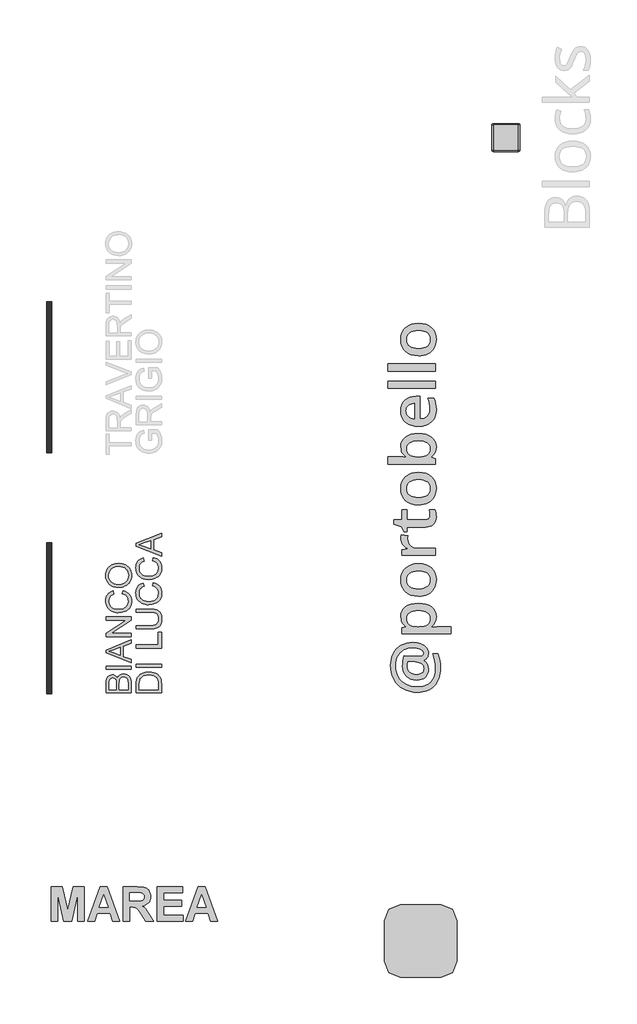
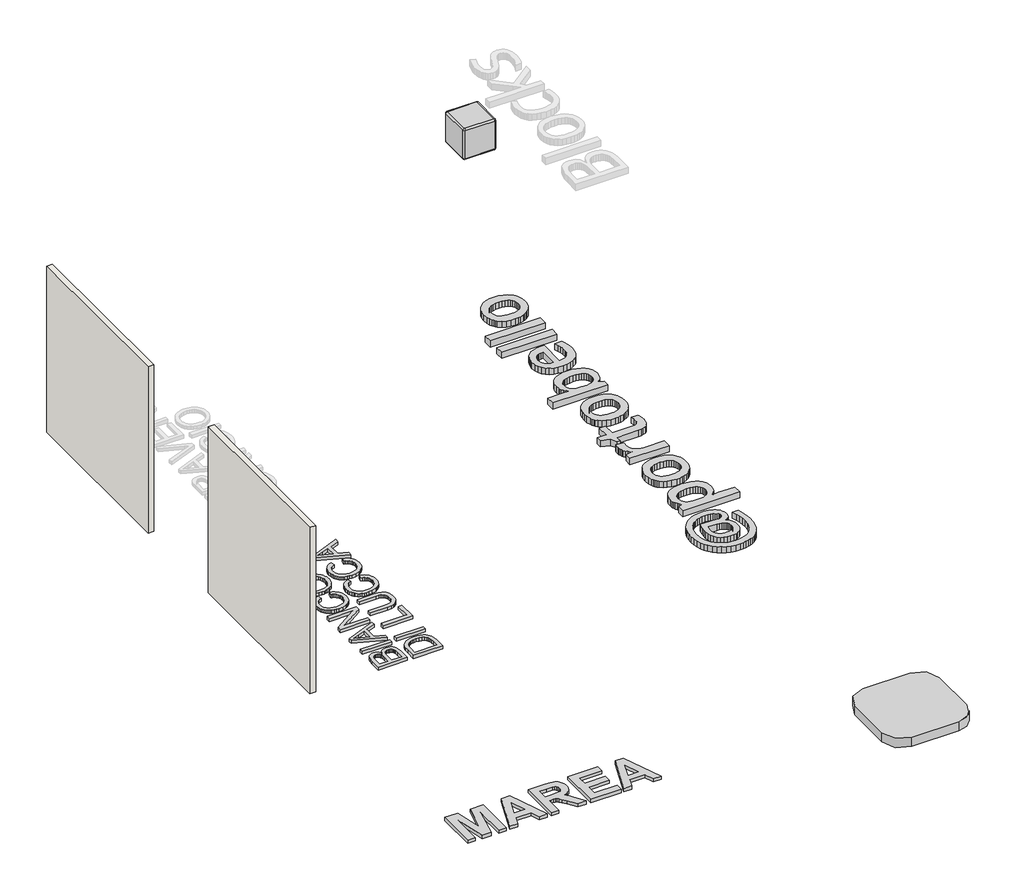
# One storey, part 1 of 4: 4 proxies, 2 walls, 1 furniture element.
"""IFC4 building model written with IfcOpenShell, lengths in millimetres."""

from ifc_helpers import new_model, si_unit, origin, origin_with_axes, place, context, project, spatial, polyline, outline, extrude, transform, mapped, element, save
from components import generic_models_9f50cdec, branco_22256ad2

model = new_model("IFC4")

# Units and contexts
model_context = context("Model", 3, world=origin())
ifc_project = project(units=[si_unit("LENGTHUNIT", "METRE", prefix="MILLI")], contexts=[model_context])

# Site, building, storey
site = spatial("IfcSite", under=ifc_project)
building = spatial("IfcBuilding", under=site)
storey = spatial("IfcBuildingStorey", under=building, Name="PORTOBELLO - SHOWROOM", Elevation=0.0)

# Proxies
placement = place(None, origin())
generic_models_shape = generic_models_9f50cdec(model_context)
element("IfcBuildingElementProxy", 1, Name="Blks_Instagram : Único", ObjectType="Blks_Instagram : Único", at=placement, inside=storey, context=model_context, shape_type="MappedRepresentation", body=[
    mapped(generic_models_shape, transform((107106.686713, -1626.1599126, 0.0), x_axis=(1.0, 0.0, 0.0), y_axis=(0.0, 1.0, 0.0), z_axis=(0.0, 0.0, 1.0))),
])
element("IfcBuildingElementProxy", 2, Name="450mm Arial", ObjectType="450mm Arial", at=placement, inside=storey, context=model_context, shape_type="SweptSolid", body=[
    extrude(outline(polyline([(101934.3714609, 2804.2895674), (101484.7153181, 2804.2895674), (101484.7153181, 2975.8746629), (101488.0224204, 3023.0660531), (101497.9437275, 3059.9107413), (101514.7262429, 3088.1514744), (101538.6169699, 3109.5309993), (101566.7204789, 3122.9926898), (101596.1413398, 3127.47992), (101623.2156675, 3123.7062555), (101648.67075, 3112.3852619), (101670.9422319, 3093.4346047), (101688.4657578, 3066.7719496), (101705.0973265, 3098.6216782), (101730.4014625, 3122.1556224), (101762.7040309, 3136.6876615), (101800.3308968, 3141.5316745), (101831.6866184, 3138.2245721), (101860.7644189, 3128.303265), (101885.4922134, 3113.4967776), (101903.797917, 3095.5341345), (101917.0537713, 3073.5371009), (101926.632018, 3046.6274422), (101932.4366002, 3013.9269237), (101934.3714609, 2974.5573109), (101934.3714609, 2804.2895674)]), holes=[polyline([(101667.3881261, 2860.4965852), (101667.3881261, 2963.1402604), (101666.1805534, 2999.0381019), (101662.5578355, 3023.0797755), (101654.2283287, 3044.0613503), (101641.7546521, 3059.142286), (101625.3289196, 3068.2402481), (101605.143245, 3071.2729022), (101585.5476343, 3068.4460844), (101568.4769482, 3059.965631), (101555.1524818, 3046.2157697), (101546.7955302, 3027.5807281), (101542.3906345, 2998.9832122), (101540.9223359, 2955.3459278), (101540.9223359, 2860.4965852), (101667.3881261, 2860.4965852)]), polyline([(101878.164443, 2860.4965852), (101878.164443, 2975.7648835), (101875.9688564, 3017.4810296), (101871.0973985, 3036.8433592), (101863.7284609, 3052.7750848), (101853.1759226, 3065.7290459), (101838.7536629, 3076.1580824), (101821.1066353, 3083.0330131), (101800.8797935, 3085.3246566), (101777.3870165, 3082.635063), (101757.1876194, 3074.5662821), (101741.3931181, 3060.4733604), (101731.1150282, 3039.7113443), (101725.475115, 3010.3042058), (101723.5951439, 2970.275917), (101723.5951439, 2860.4965852), (101878.164443, 2860.4965852)])]), origin_with_axes(), (0.0, 0.0, 1.0), 50.0),
    extrude(outline(polyline([(101934.3714609, 3225.8422012), (101484.7153181, 3225.8422012), (101484.7153181, 3282.0492191), (101934.3714609, 3282.0492191), (101934.3714609, 3225.8422012)])), origin_with_axes(), (0.0, 0.0, 1.0), 50.0),
    extrude(outline(polyline([(101934.3714609, 3342.0985136), (101484.7153181, 3521.587721), (101484.7153181, 3569.4515096), (101934.3714609, 3748.940717), (101934.3714609, 3689.5500985), (101793.8539162, 3638.0635919), (101793.8539162, 3452.8658593), (101934.3714609, 3401.489132), (101934.3714609, 3342.0985136)]), holes=[polyline([(101737.6468984, 3473.5043737), (101737.6468984, 3617.5348569), (101627.0991113, 3577.0262835), (101540.9223359, 3545.5196153), (101617.4385301, 3517.5258857), (101737.6468984, 3473.5043737)])]), origin_with_axes(), (0.0, 0.0, 1.0), 50.0),
    extrude(outline(polyline([(101934.3714609, 3808.9900115), (101484.7153181, 3808.9900115), (101484.7153181, 3869.1490853), (101840.9492496, 4104.0768552), (101484.7153181, 4104.0768552), (101484.7153181, 4160.283873), (101934.3714609, 4160.283873), (101934.3714609, 4100.1247992), (101578.02775, 3865.1970293), (101934.3714609, 3865.1970293), (101934.3714609, 3808.9900115)])), origin_with_axes(), (0.0, 0.0, 1.0), 50.0),
    extrude(outline(polyline([(101774.5327539, 4574.8106297), (101789.0236256, 4631.0176476), (101823.978051, 4619.895629), (101854.5207194, 4605.0822804), (101880.651631, 4586.5776018), (101902.3707857, 4564.3815932), (101919.4449024, 4538.9951227), (101931.6407, 4510.9190586), (101938.9581786, 4480.1534009), (101941.3973381, 4446.6981496), (101939.5516731, 4412.4229838), (101934.014678, 4381.5029489), (101924.786353, 4353.9380448), (101911.8666979, 4329.7282716), (101895.4478266, 4308.5408606), (101875.7218529, 4290.0430432), (101852.6887768, 4274.2348194), (101826.3485984, 4261.1161892), (101768.3027768, 4243.4554393), (101706.1402302, 4237.5685226), (101672.2390003, 4239.2323656), (101640.5745243, 4244.2238946), (101611.1468022, 4252.5431096), (101583.955834, 4264.1900105), (101559.4510287, 4278.9038716), (101538.0817957, 4296.4239668), (101519.8481348, 4316.7502962), (101504.7500461, 4339.8828598), (101492.9110313, 4365.0360492), (101484.4545921, 4391.424256), (101479.3807287, 4419.0474804), (101477.6894408, 4447.9057222), (101479.8781663, 4480.0539134), (101486.4443425, 4509.5330946), (101497.3879697, 4536.3432657), (101512.7090477, 4560.4844269), (101532.0027652, 4581.558628), (101554.864311, 4599.1679189), (101581.2936852, 4613.3122997), (101611.2908876, 4623.9917703), (101624.683966, 4567.7847525), (101583.695108, 4548.2989211), (101568.027539, 4535.8801342), (101555.5778767, 4521.6774331), (101546.0922563, 4505.6084835), (101539.3168132, 4487.5909506), (101533.8964587, 4445.7101356), (101535.3990633, 4420.4951953), (101539.9068771, 4397.4346744), (101547.4199001, 4376.5285729), (101557.9381323, 4357.7768908), (101570.9881504, 4341.4163398), (101586.0965309, 4327.6836315), (101603.2632739, 4316.578766), (101622.4883794, 4308.1017432), (101663.628184, 4297.3570911), (101706.0304508, 4293.7755404), (101757.9560748, 4298.0157671), (101802.8558214, 4310.7364472), (101822.2421653, 4320.3970284), (101839.0143888, 4332.4178652), (101853.172492, 4346.7989577), (101864.7164749, 4363.5403058), (101880.0718589, 4400.8515561), (101885.1903203, 4441.0994036), (101883.4475734, 4465.5355968), (101878.2193327, 4488.0163455), (101869.5055982, 4508.54165), (101857.30637, 4527.1115101), (101841.6765376, 4543.2868085), (101822.6709908, 4556.6284279), (101800.2897296, 4567.1363683), (101774.5327539, 4574.8106297)])), origin_with_axes(), (0.0, 0.0, 1.0), 50.0),
    extrude(outline(polyline([(101715.4714734, 4687.2246654), (101662.7293657, 4690.9708851), (101616.0388437, 4702.2095442), (101575.3999073, 4720.9406427), (101540.8125566, 4747.1641805), (101513.1961934, 4779.3089411), (101493.4702198, 4815.8037077), (101481.6346356, 4856.6484803), (101477.6894408, 4901.843259), (101479.541967, 4932.0943261), (101485.0995457, 4960.8222049), (101494.3621768, 4988.0268956), (101507.3298604, 5013.708398), (101523.6115075, 5037.1462853), (101542.8160294, 5057.6201307), (101564.9434259, 5075.1299341), (101589.9936972, 5089.6756956), (101617.3973629, 5101.1064685), (101646.5849427, 5109.2713063), (101677.5564367, 5114.170209), (101710.3118448, 5115.8031765), (101743.499509, 5114.0844439), (101774.8895367, 5108.9282459), (101804.4819278, 5100.3345826), (101832.2766824, 5088.3034539), (101857.5396511, 5073.1196001), (101879.5366847, 5055.0677612), (101898.2677831, 5034.1479373), (101913.7329465, 5010.3601284), (101925.8361178, 4984.6408893), (101934.4812402, 4957.9267751), (101939.6683136, 4930.2177856), (101941.3973381, 4901.513921), (101939.4864916, 4870.7345408), (101933.7539521, 4841.6292955), (101924.1997197, 4814.198185), (101910.8237942, 4788.4412093), (101894.144197, 4765.0307668), (101874.6789492, 4744.6392559), (101852.4280509, 4727.2666767), (101827.3915021, 4712.913029), (101800.5744697, 4701.6743699), (101772.9821208, 4693.6467563), (101744.6144554, 4688.8301881), (101715.4714734, 4687.2246654)]), holes=[polyline([(101716.02037, 4743.4316833), (101753.283592, 4746.241348), (101786.3614769, 4754.6703423), (101815.2540247, 4768.7186662), (101839.9612356, 4788.3863196), (101859.7489601, 4812.2941997), (101873.8830491, 4839.0632036), (101882.3635025, 4868.6933314), (101885.1903203, 4901.184583), (101882.3360576, 4934.2315924), (101873.7732698, 4964.2116418), (101859.5019566, 4991.1247311), (101839.5221182, 5014.9708603), (101814.2934556, 5034.4944284), (101784.2756695, 5048.4398341), (101749.4687602, 5056.8070775), (101709.8727275, 5059.5961587), (101660.1152453, 5054.8207577), (101617.1091921, 5040.494555), (101581.9386387, 5016.9880555), (101555.687656, 4984.6717648), (101539.344258, 4945.6863796), (101533.8964587, 4902.172597), (101536.5208708, 4870.8100141), (101544.3941073, 4841.71163), (101557.516168, 4814.8774446), (101575.8870531, 4790.3074579), (101600.3918583, 4769.7993065), (101631.9156795, 4755.1506269), (101670.4585168, 4746.3614192), (101716.02037, 4743.4316833)])]), origin_with_axes(), (0.0, 0.0, 1.0), 50.0),
    extrude(outline(polyline([(102474.8035441, 2804.2895674), (102025.1474012, 2804.2895674), (102025.1474012, 2959.4077631), (102026.7666464, 3005.7620859), (102031.6243818, 3039.6564546), (102044.1117808, 3075.4994064), (102063.789726, 3105.7436123), (102098.0408775, 3136.838608), (102140.6352582, 3158.9865882), (102190.7495232, 3172.2424425), (102247.5603273, 3176.6610606), (102295.8220661, 3173.6695738), (102338.292945, 3164.6951135), (102374.4515124, 3151.0275867), (102403.7763164, 3133.9569006), (102426.926033, 3114.3064002), (102444.5593382, 3092.8994305), (102457.6368011, 3068.3225826), (102467.1189908, 3039.1624476), (102472.8824057, 3005.3641359), (102474.8035441, 2966.8727577), (102474.8035441, 2804.2895674)]), holes=[polyline([(102418.5965262, 2860.4965852), (102418.5965262, 2959.9566598), (102416.5656086, 3001.0964643), (102410.4728557, 3032.3012394), (102400.6750503, 3055.848906), (102387.5289753, 3074.0173854), (102363.1991309, 3093.5443841), (102331.7061851, 3108.2136473), (102292.9129138, 3117.3939439), (102246.6820927, 3120.4540428), (102214.0501863, 3118.9548688), (102185.4252256, 3114.4573468), (102160.8072104, 3106.9614768), (102140.1961409, 3096.4672588), (102109.12859, 3069.8869381), (102098.2055465, 3054.6516252), (102090.3563243, 3038.119544), (102083.6048954, 3005.7895308), (102081.3544191, 2958.4197491), (102081.3544191, 2860.4965852), (102418.5965262, 2860.4965852)])]), origin_with_axes(), (0.0, 0.0, 1.0), 50.0),
    extrude(outline(polyline([(102474.8035441, 3260.9715874), (102025.1474012, 3260.9715874), (102025.1474012, 3317.1786053), (102474.8035441, 3317.1786053), (102474.8035441, 3260.9715874)])), origin_with_axes(), (0.0, 0.0, 1.0), 50.0),
    extrude(outline(polyline([(102474.8035441, 3605.2395717), (102025.1474012, 3605.2395717), (102025.1474012, 3661.4465896), (102418.5965262, 3661.4465896), (102418.5965262, 3886.274661), (102474.8035441, 3886.274661), (102474.8035441, 3605.2395717)])), origin_with_axes(), (0.0, 0.0, 1.0), 50.0),
    extrude(outline(polyline([(102025.1474012, 4244.5943998), (102025.1474012, 4300.8014177), (102284.5559621, 4300.8014177), (102345.3050998, 4296.9865859), (102392.0848176, 4285.5420906), (102411.0560584, 4276.3823776), (102428.1747729, 4264.1625657), (102443.4409612, 4248.882655), (102456.8546233, 4230.5426454), (102467.7810974, 4209.1219532), (102475.5857218, 4184.599995), (102480.2684964, 4156.9767707), (102481.8294213, 4126.2522802), (102476.3953444, 4069.1807501), (102469.6027482, 4044.9366708), (102460.0931136, 4023.5537154), (102448.0070953, 4005.0284531), (102433.4853481, 3989.3574535), (102416.5278719, 3976.5407165), (102397.1346668, 3966.5782422), (102348.3789211, 3953.7752276), (102284.5559621, 3949.5075561), (102025.1474012, 3949.5075561), (102025.1474012, 4005.7145739), (102282.5799342, 4005.7145739), (102333.0921492, 4008.4865021), (102368.2627026, 4016.8022865), (102392.6199918, 4031.8694997), (102410.6924143, 4054.8957146), (102421.8899062, 4084.9203618), (102425.6224034, 4120.9828723), (102423.7767384, 4151.9612275), (102418.2397434, 4178.1504593), (102409.0114183, 4199.5505678), (102396.0917632, 4216.1615529), (102377.9232838, 4228.6009234), (102352.9484858, 4237.4861881), (102321.1673693, 4242.8173469), (102282.5799342, 4244.5943998), (102025.1474012, 4244.5943998)])), origin_with_axes(), (0.0, 0.0, 1.0), 50.0),
    extrude(outline(polyline([(102314.964837, 4715.3281743), (102329.4557088, 4771.5351922), (102364.4101342, 4760.4131736), (102394.9528026, 4745.5998251), (102421.0837142, 4727.0951465), (102442.8028688, 4704.8991378), (102459.8769855, 4679.5126673), (102472.0727832, 4651.4366033), (102479.3902618, 4620.6709455), (102481.8294213, 4587.2156942), (102479.9837563, 4552.9405285), (102474.4467612, 4522.0204935), (102465.2184361, 4494.4555895), (102452.298781, 4470.2458162), (102435.8799097, 4449.0584052), (102416.1539361, 4430.5605878), (102393.12086, 4414.752364), (102366.7806816, 4401.6337339), (102308.73486, 4383.9729839), (102246.5723134, 4378.0860672), (102212.6710835, 4379.7499102), (102181.0066075, 4384.7414392), (102151.5788854, 4393.0606542), (102124.3879171, 4404.7075552), (102099.8831119, 4419.4214162), (102078.5138789, 4436.9415114), (102060.280218, 4457.2678408), (102045.1821293, 4480.4004044), (102033.3431145, 4505.5535938), (102024.8866753, 4531.9418007), (102019.8128118, 4559.565025), (102018.121524, 4588.4232668), (102020.3102494, 4620.571458), (102026.8764257, 4650.0506392), (102037.8200528, 4676.8608104), (102053.1411308, 4701.0019715), (102072.4348484, 4722.0761726), (102095.2963942, 4739.6854636), (102121.7257683, 4753.8298443), (102151.7229707, 4764.5093149), (102165.1160492, 4708.3022971), (102124.1271912, 4688.8164657), (102108.4596222, 4676.3976788), (102096.0099599, 4662.1949778), (102086.5243395, 4646.1260281), (102079.7488964, 4628.1084953), (102074.3285419, 4586.2276802), (102075.8311465, 4561.0127399), (102080.3389603, 4537.9522191), (102087.8519833, 4517.0461176), (102098.3702155, 4498.2944355), (102111.4202336, 4481.9338844), (102126.5286141, 4468.2011762), (102143.6953571, 4457.0963106), (102162.9204626, 4448.6192879), (102204.0602671, 4437.8746358), (102246.462534, 4434.2930851), (102298.3881579, 4438.5333118), (102343.2879046, 4451.2539918), (102362.6742485, 4460.914573), (102379.446472, 4472.9354098), (102393.6045752, 4487.3165023), (102405.1485581, 4504.0578504), (102420.5039421, 4541.3691008), (102425.6224034, 4581.6169483), (102423.8796565, 4606.0531414), (102418.6514159, 4628.5338902), (102409.9376814, 4649.0591946), (102397.7384532, 4667.6290547), (102382.1086208, 4683.8043531), (102363.103074, 4697.1459725), (102340.7218127, 4707.6539129), (102314.964837, 4715.3281743)])), origin_with_axes(), (0.0, 0.0, 1.0), 50.0),
    extrude(outline(polyline([(102314.964837, 5164.9843171), (102329.4557088, 5221.191335), (102364.4101342, 5210.0693165), (102394.9528026, 5195.2559679), (102421.0837142, 5176.7512893), (102442.8028688, 5154.5552806), (102459.8769855, 5129.1688102), (102472.0727832, 5101.0927461), (102479.3902618, 5070.3270884), (102481.8294213, 5036.871837), (102479.9837563, 5002.5966713), (102474.4467612, 4971.6766364), (102465.2184361, 4944.1117323), (102452.298781, 4919.901959), (102435.8799097, 4898.714548), (102416.1539361, 4880.2167306), (102393.12086, 4864.4085068), (102366.7806816, 4851.2898767), (102308.73486, 4833.6291267), (102246.5723134, 4827.74221), (102212.6710835, 4829.406053), (102181.0066075, 4834.397582), (102151.5788854, 4842.716797), (102124.3879171, 4854.363698), (102099.8831119, 4869.077559), (102078.5138789, 4886.5976543), (102060.280218, 4906.9239837), (102045.1821293, 4930.0565472), (102033.3431145, 4955.2097366), (102024.8866753, 4981.5979435), (102019.8128118, 5009.2211678), (102018.121524, 5038.0794097), (102020.3102494, 5070.2276008), (102026.8764257, 5099.706782), (102037.8200528, 5126.5169532), (102053.1411308, 5150.6581144), (102072.4348484, 5171.7323154), (102095.2963942, 5189.3416064), (102121.7257683, 5203.4859872), (102151.7229707, 5214.1654578), (102165.1160492, 5157.9584399), (102124.1271912, 5138.4726085), (102108.4596222, 5126.0538216), (102096.0099599, 5111.8511206), (102086.5243395, 5095.7821709), (102079.7488964, 5077.7646381), (102074.3285419, 5035.883823), (102075.8311465, 5010.6688828), (102080.3389603, 4987.6083619), (102087.8519833, 4966.7022604), (102098.3702155, 4947.9505783), (102111.4202336, 4931.5900273), (102126.5286141, 4917.857319), (102143.6953571, 4906.7524535), (102162.9204626, 4898.2754307), (102204.0602671, 4887.5307786), (102246.462534, 4883.9492279), (102298.3881579, 4888.1894546), (102343.2879046, 4900.9101346), (102362.6742485, 4910.5707158), (102379.446472, 4922.5915527), (102393.6045752, 4936.9726451), (102405.1485581, 4953.7139932), (102420.5039421, 4991.0252436), (102425.6224034, 5031.2730911), (102423.8796565, 5055.7092842), (102418.6514159, 5078.190033), (102409.9376814, 5098.7153374), (102397.7384532, 5117.2851975), (102382.1086208, 5133.4604959), (102363.103074, 5146.8021153), (102340.7218127, 5157.3100557), (102314.964837, 5164.9843171)])), origin_with_axes(), (0.0, 0.0, 1.0), 50.0),
    extrude(outline(polyline([(102474.8035441, 5246.1112433), (102025.1474012, 5425.6004507), (102025.1474012, 5473.4642393), (102474.8035441, 5652.9534467), (102474.8035441, 5593.5628283), (102334.2859994, 5542.0763217), (102334.2859994, 5356.878589), (102474.8035441, 5305.5018618), (102474.8035441, 5246.1112433)]), holes=[polyline([(102278.0789816, 5377.5171034), (102278.0789816, 5521.5475866), (102167.5311945, 5481.0390132), (102081.3544191, 5449.532345), (102157.8706133, 5421.5386154), (102278.0789816, 5377.5171034)])]), origin_with_axes(), (0.0, 0.0, 1.0), 50.0),
])
element("IfcBuildingElementProxy", 3, Name="600mm Arial", ObjectType="600mm Arial", at=placement, inside=storey, context=model_context, shape_type="SweptSolid", body=[
    extrude(outline(polyline([(100504.7142793, -1269.5919435), (100504.7142793, -657.4363036), (100704.5150785, -657.4363036), (100801.0753431, -1074.9531711), (100897.6356078, -657.4363036), (101097.4364069, -657.4363036), (101097.4364069, -1269.5919435), (100980.8353327, -1269.5919435), (100975.9769546, -787.7015662), (100869.3962851, -1269.5919435), (100732.9062255, -1269.5919435), (100626.1737317, -787.7015662), (100621.3153536, -1269.5919435), (100504.7142793, -1269.5919435)])), origin_with_axes(), (0.0, 0.0, 1.0), 50.0),
    extrude(outline(polyline([(101729.0255593, -1269.5919435), (101606.5033367, -1269.5919435), (101558.526853, -1133.5573569), (101327.2984206, -1133.5573569), (101279.9292341, -1269.5919435), (101155.7369441, -1269.5919435), (101379.2223365, -657.4363036), (101503.4146265, -657.4363036), (101729.0255593, -1269.5919435)]), holes=[polyline([(101521.1780714, -1026.6730388), (101442.3812517, -803.1876464), (101364.6472022, -1026.6730388), (101521.1780714, -1026.6730388)])]), origin_with_axes(), (0.0, 0.0, 1.0), 50.0),
    extrude(outline(polyline([(101787.3260964, -1269.5919435), (101787.3260964, -657.4363036), (102044.8201355, -657.4363036), (102128.7030698, -661.5735162), (102160.6810662, -666.7450319), (102186.0167489, -673.985154), (102206.9305483, -683.8727125), (102225.6428952, -696.9865377), (102242.1537895, -713.3266297), (102256.4632312, -732.8929884), (102268.0208573, -754.841091), (102276.2763044, -778.3264148), (102281.2295727, -803.3489598), (102282.8806621, -829.9087259), (102280.4941737, -863.0159157), (102273.3347083, -893.1055973), (102261.402266, -920.1777705), (102244.6968468, -944.2324355), (102223.2374287, -964.690762), (102197.0429898, -980.9739198), (102166.11353, -993.081909), (102130.4490494, -1001.0147295), (102164.2679157, -1025.3825321), (102191.6342485, -1052.0276995), (102219.9494834, -1090.6290317), (102256.6150556, -1150.8653288), (102331.4644431, -1269.5919435), (102195.2780321, -1269.5919435), (102106.6126319, -1129.761749), (102063.7791969, -1076.0728754), (102037.0011832, -1046.7897606), (102017.6815391, -1032.3854287), (101997.2232126, -1023.3329038), (101970.0656381, -1018.5504379), (101930.6482502, -1016.9562826), (101903.9271707, -1016.9562826), (101903.9271707, -1269.5919435), (101787.3260964, -1269.5919435)]), holes=[polyline([(101903.9271707, -910.0719645), (102000.0319624, -910.0719645), (102075.887186, -908.3070068), (102116.7089488, -903.0121338), (102137.470924, -893.4092459), (102153.1467846, -878.7202434), (102162.996387, -859.3436651), (102166.2795879, -835.6780499), (102161.9525949, -809.4693775), (102148.9716159, -788.8402486), (102128.0957725, -774.2840924), (102100.0841863, -766.2943378), (102005.3458135, -764.3206217), (101903.9271707, -764.3206217), (101903.9271707, -910.0719645)])]), origin_with_axes(), (0.0, 0.0, 1.0), 50.0),
    extrude(outline(polyline([(102399.4817364, -1269.5919435), (102399.4817364, -657.4363036), (102856.1692773, -657.4363036), (102856.1692773, -764.3206217), (102516.0828107, -764.3206217), (102516.0828107, -900.3552083), (102836.735765, -900.3552083), (102836.735765, -1007.2395264), (102516.0828107, -1007.2395264), (102516.0828107, -1162.7076254), (102865.8860335, -1162.7076254), (102865.8860335, -1269.5919435), (102399.4817364, -1269.5919435)])), origin_with_axes(), (0.0, 0.0, 1.0), 50.0),
    extrude(outline(polyline([(103478.0416735, -1269.5919435), (103355.5194509, -1269.5919435), (103307.5429672, -1133.5573569), (103076.3145348, -1133.5573569), (103028.9453483, -1269.5919435), (102904.7530583, -1269.5919435), (103128.2384507, -657.4363036), (103252.4307407, -657.4363036), (103478.0416735, -1269.5919435)]), holes=[polyline([(103270.1941856, -1026.6730388), (103191.3973659, -803.1876464), (103113.6633164, -1026.6730388), (103270.1941856, -1026.6730388)])]), origin_with_axes(), (0.0, 0.0, 1.0), 50.0),
])
element("IfcBuildingElementProxy", 4, Name="80mm OpenSans Bold", ObjectType="80mm OpenSans Bold", at=placement, inside=storey, context=model_context, shape_type="SweptSolid", body=[
    extrude(outline(polyline([(106967.076052, 3705.1756898), (107005.1816666, 3703.62833), (107041.6197381, 3698.9862504), (107076.3902665, 3691.249451), (107109.4932517, 3680.4179319), (107139.9747388, 3666.7771284), (107166.8807731, 3650.6124758), (107190.2113544, 3631.923974), (107209.9664829, 3610.7116232), (107225.6879596, 3587.3660189), (107236.9175859, 3562.2777569), (107243.6553616, 3535.4468373), (107245.9012869, 3506.8732598), (107240.1925806, 3466.2513075), (107233.0566977, 3448.1036306), (107223.0664616, 3431.3981531), (107210.6425139, 3416.7207687), (107196.2054961, 3404.6573709), (107179.7554081, 3395.2079597), (107161.2922501, 3388.372535), (107161.2922501, 3381.6422707), (107198.3087037, 3351.4762647), (107224.7490277, 3314.820361), (107240.6132221, 3272.4557509), (107245.9012869, 3225.1636259), (107242.3483683, 3182.4985577), (107231.6896127, 3144.640821), (107213.92502, 3111.590416), (107189.0545903, 3083.3473427), (107158.1149043, 3060.737861), (107122.1425431, 3044.5882313), (107081.1375065, 3034.8984535), (107035.0997946, 3031.6685276), (106981.9562457, 3035.9500573), (106934.0556928, 3048.7946465), (106891.398136, 3070.2022952), (106853.9835752, 3100.1730034), (106823.5396453, 3137.354709), (106801.7939811, 3180.3953501), (106788.7465826, 3229.2949266), (106784.3974498, 3284.0534385), (106786.2302449, 3328.371027), (106791.7286305, 3377.1954889), (106800.4719649, 3425.4190344), (106812.0396067, 3467.9338736), (107063.2226847, 3455.6751779), (107075.9621135, 3455.6751779), (107113.8198502, 3459.2806766), (107140.8610906, 3470.0971728), (107150.3255248, 3478.209545), (107157.0858349, 3488.1246665), (107162.494083, 3513.3631575), (107159.0313019, 3534.1173096), (107148.6429587, 3552.6330479), (107131.3290534, 3568.9103723), (107107.0895859, 3582.949283), (107077.486939, 3594.2540238), (107044.0834956, 3602.3288386), (107006.8792556, 3607.1737276), (106965.874219, 3608.7886905), (106920.7829506, 3606.3700018), (106878.5310124, 3599.1139356), (106839.1184044, 3587.020492), (106802.5451267, 3570.0896709), (106769.4045842, 3548.6970451), (106740.290182, 3523.2181874), (106715.20192, 3493.6530978), (106694.1397983, 3460.0017764), (106677.4718781, 3423.0003457), (106665.5662209, 3383.3849284), (106658.4228265, 3341.1555246), (106656.0416951, 3296.3121342), (106659.0312544, 3239.3377428), (106667.9999325, 3186.1941939), (106682.9477293, 3136.8814873), (106703.8746448, 3091.3996231), (106730.3525261, 3050.4096095), (106761.9532202, 3014.5724544), (106798.676727, 2983.888158), (106840.5230466, 2958.3567201), (106886.7109876, 2938.2710876), (106936.4593586, 2923.9242073), (106989.7681596, 2915.316079), (107046.6373905, 2912.446703), (107120.8130154, 2917.8023709), (107185.8997789, 2933.8693746), (107215.0348376, 2945.9196274), (107241.897681, 2960.6477141), (107266.488309, 2978.0536348), (107288.8067217, 2998.1373894), (107308.6651327, 3020.7224588), (107325.8757555, 3045.6323237), (107340.4385902, 3072.8669841), (107352.3536368, 3102.4264401), (107368.2403656, 3168.5197386), (107373.5359418, 3243.9122193), (107370.4412221, 3305.6263392), (107361.1570629, 3368.6624753), (107345.6834642, 3433.0206276), (107324.020426, 3498.7007961), (107414.1578942, 3498.7007961), (107434.7693285, 3439.4804795), (107449.4917817, 3377.6762221), (107458.3252536, 3313.288024), (107461.2697442, 3246.3158851), (107459.5740331, 3196.7008425), (107454.4868997, 3149.8913285), (107446.0083441, 3105.8873433), (107434.1383663, 3064.6888867), (107418.8769662, 3026.2959589), (107400.2241439, 2990.7085597), (107378.1798993, 2957.9266893), (107352.7442325, 2927.9503475), (107324.2739376, 2901.1626187), (107293.1258088, 2877.946587), (107259.2998459, 2858.3022525), (107222.7960492, 2842.2296153), (107183.6144185, 2829.7286751), (107141.7549538, 2820.7994322), (107097.2176552, 2815.4418864), (107050.0025227, 2813.6560378), (106980.9346877, 2817.5169261), (106915.7878326, 2829.0995907), (106854.5619573, 2848.4040318), (106797.2570619, 2875.4302494), (106745.1576053, 2909.3069145), (106699.5480464, 2949.1626983), (106660.4283852, 2994.9976009), (106627.7986217, 3046.8116222), (106602.0869089, 3103.4329751), (106583.7213998, 3163.6898726), (106572.7020943, 3227.5823147), (106569.0289924, 3295.1103012), (106572.0936664, 3353.3315942), (106581.2876881, 3408.2929155), (106596.6110577, 3459.9942649), (106618.0637751, 3508.4356426), (106645.1801301, 3552.6180249), (106677.4944125, 3591.5423883), (106715.0066222, 3625.2087327), (106757.7167592, 3653.617058), (106804.7835405, 3676.1739595), (106855.365683, 3692.2860319), (106909.4631869, 3701.9532754), (106967.076052, 3705.1756898)]), holes=[polyline([(107037.0227273, 3136.9490904), (107066.4300763, 3138.5377633), (107091.9164454, 3143.3037819), (107113.4818347, 3151.2471463), (107131.1262441, 3162.3678564), (107144.8496736, 3176.6659123), (107154.6521232, 3194.141314), (107160.533593, 3214.7940614), (107162.494083, 3238.6241545), (107160.0303255, 3263.9077143), (107152.6390531, 3286.1566461), (107140.3202658, 3305.3709497), (107123.0739636, 3321.5506252), (107100.9001464, 3334.6956727), (107073.7988143, 3344.806092), (107041.7699673, 3351.8818833), (107004.8136053, 3355.9230464), (106876.217484, 3362.6533107), (106869.3670364, 3326.3579569), (106867.0835539, 3287.6589372), (106869.9454185, 3254.045173), (106878.5310124, 3224.3523887), (106892.8403354, 3198.5805843), (106912.8733878, 3176.7297597), (106937.8039092, 3159.3257169), (106966.8056395, 3146.8942577), (106999.8785789, 3139.4353822), (107037.0227273, 3136.9490904)])]), origin_with_axes(), (0.0, 0.0, 1.0), 100.0),
    extrude(outline(polyline([(107384.352438, 4163.795128), (107379.1545107, 4110.238449), (107363.5607287, 4063.0214385), (107337.571092, 4022.1440967), (107301.1856007, 3987.6064235), (107301.1856007, 3979.9146929), (107395.1689342, 3987.6064235), (107645.871279, 3987.6064235), (107645.871279, 3858.7699356), (106769.0139885, 3858.7699356), (106769.0139885, 3963.0890322), (106846.1716613, 3981.1165258), (106846.1716613, 3987.6064235), (106824.482333, 4003.4368163), (106805.6849152, 4021.1225388), (106789.7794078, 4040.6635907), (106776.7658108, 4062.0599722), (106766.6441243, 4085.3116833), (106759.4143482, 4110.4187239), (106753.6305273, 4166.1987938), (106758.7908973, 4219.0043272), (106774.2720075, 4265.650467), (106800.0738578, 4306.1372132), (106836.1964481, 4340.4645656), (106881.6332436, 4367.8062643), (106935.377709, 4387.3360491), (106997.4298444, 4399.0539199), (107067.7896497, 4402.9598769), (107138.3222186, 4398.9863168), (107200.6522778, 4387.0656367), (107254.7798275, 4367.1978364), (107300.7048675, 4339.382916), (107337.3006796, 4304.5673189), (107363.4405454, 4263.6974886), (107379.1244649, 4216.7734249), (107384.352438, 4163.795128)]), holes=[polyline([(106861.3147559, 4132.3071058), (106864.1090175, 4097.2210963), (106872.491802, 4067.1978079), (106886.4631096, 4042.2372407), (106906.0229402, 4022.3393946), (106931.7121186, 4007.1437197), (106964.0714697, 3996.2896663), (107003.1009934, 3989.7772342), (107048.8006898, 3987.6064235), (107067.7896497, 3987.6064235), (107119.1379608, 3989.7546998), (107162.8546329, 3996.1995288), (107198.939666, 4006.9409104), (107227.3930601, 4021.9788447), (107248.9509379, 4041.8992252), (107264.349422, 4067.2879454), (107273.5885125, 4098.1450053), (107276.6682094, 4134.470405), (107273.2580085, 4165.395068), (107263.0274058, 4192.5489803), (107245.9764014, 4215.9321419), (107222.1049953, 4235.5445527), (107191.9389893, 4251.0557086), (107156.0041853, 4262.1351058), (107114.3005833, 4268.782744), (107066.8281834, 4270.9986235), (107019.1980429, 4268.797767), (106977.742319, 4262.1951974), (106942.4610117, 4251.1909148), (106913.3541209, 4235.7849192), (106890.5868987, 4216.1124168), (106874.3245972, 4192.3086137), (106864.5672163, 4164.3735101), (106861.3147559, 4132.3071058)])]), origin_with_axes(), (0.0, 0.0, 1.0), 100.0),
    extrude(outline(polyline([(107067.7896497, 5111.079827), (107138.3222186, 5106.2724953), (107200.6522778, 5091.8505004), (107254.7798275, 5067.8138422), (107300.7048675, 5034.1625208), (107320.3097669, 5013.9905066), (107337.3006796, 4991.9331169), (107351.6776058, 4967.990352), (107363.4405454, 4942.1622116), (107379.1244649, 4884.8498047), (107384.352438, 4819.9958964), (107381.9412607, 4778.3448746), (107374.7077289, 4739.2026791), (107362.6518425, 4702.5693097), (107345.7736016, 4668.4447665), (107324.3959988, 4637.4675233), (107298.8420265, 4610.2760537), (107269.1116849, 4586.8703578), (107235.204974, 4567.2504356), (107197.7453445, 4551.7392796), (107157.3562473, 4540.6598825), (107114.0376824, 4534.0122442), (107067.7896497, 4531.7963648), (106997.8204401, 4536.5661391), (106935.9786254, 4550.8754622), (106882.2642058, 4574.724334), (106836.6771813, 4608.1127545), (106817.2131218, 4628.170219), (106800.3442702, 4650.1844178), (106786.0706265, 4674.1553507), (106774.3921908, 4700.0830179), (106758.8209432, 4757.8085548), (106753.6305273, 4823.3610285), (106758.9486379, 4886.2544469), (106774.9029698, 4942.2523491), (106801.4935229, 4991.3547349), (106838.7202973, 5033.5616043), (106884.9457955, 5067.4758267), (106938.5325204, 5091.7002713), (106999.4804718, 5106.2349381), (107067.7896497, 5111.079827)]), holes=[polyline([(107067.7896497, 4664.4787179), (107116.7455621, 4666.9424754), (107159.1740196, 4674.3337478), (107195.075022, 4686.6525351), (107224.4485694, 4703.8988374), (107247.2946619, 4726.0726545), (107263.6132994, 4753.1739866), (107273.4044819, 4785.2028337), (107276.6682094, 4822.1591956), (107273.4044819, 4858.7775421), (107263.6132994, 4890.5134423), (107247.2946619, 4917.3668964), (107224.4485694, 4939.3379043), (107195.075022, 4956.4264659), (107159.1740196, 4968.6325814), (107116.7455621, 4975.9562507), (107067.7896497, 4978.3974738), (107019.3970965, 4975.9412278), (106977.4568837, 4968.5724898), (106941.9690113, 4956.2912597), (106912.9334794, 4939.0975377), (106890.3502879, 4916.9913236), (106874.2194368, 4889.9726175), (106864.5409262, 4858.0414194), (106861.3147559, 4821.1977293), (106864.6498423, 4782.8066793), (106874.6551012, 4750.0792669), (106891.3305329, 4723.0154921), (106914.6761371, 4701.6153548), (106944.2562496, 4685.3680762), (106979.6352059, 4673.7628772), (107020.8130059, 4666.7997577), (107067.7896497, 4664.4787179)])]), origin_with_axes(), (0.0, 0.0, 1.0), 100.0),
    extrude(outline(polyline([(106753.6305273, 5561.7671679), (106755.0126351, 5596.4400473), (106759.1589587, 5624.5028458), (106879.3422496, 5612.2441501), (106874.2945514, 5584.8423598), (106872.6119853, 5556.4791031), (106875.7517738, 5520.4241158), (106885.1711392, 5487.9746273), (106900.8700816, 5459.1306375), (106922.8486009, 5433.8921464), (106949.8447726, 5413.3858724), (106980.5966722, 5398.7385338), (107015.1042996, 5389.9501306), (107053.3676548, 5387.0206629), (107368.9689768, 5387.0206629), (107368.9689768, 5258.1841751), (106769.0139885, 5258.1841751), (106769.0139885, 5359.1381394), (106871.1697858, 5376.2041667), (106871.1697858, 5382.6940644), (106845.5256761, 5398.4906557), (106822.6758279, 5416.5557067), (106802.6202412, 5436.8892172), (106785.3589161, 5459.4911873), (106771.477746, 5483.6855861), (106761.5626245, 5508.7963824), (106755.6135516, 5534.8235764), (106753.6305273, 5561.7671679)])), origin_with_axes(), (0.0, 0.0, 1.0), 100.0),
    extrude(outline(polyline([(107276.6682094, 5980.72612), (107273.002619, 6028.6191615), (107262.0058479, 6076.6323862), (107361.7579793, 6076.6323862), (107370.5914512, 6051.8746283), (107377.8625403, 6020.8673392), (107382.7299636, 5986.1343681), (107384.352438, 5950.1995641), (107381.3178099, 5906.8209076), (107372.2139256, 5869.2260719), (107357.0407852, 5837.4150571), (107335.7983885, 5811.3878631), (107308.4867356, 5791.1444901), (107275.1058266, 5776.6849379), (107235.6556613, 5768.0092066), (107190.1362399, 5765.1172961), (106861.3147559, 5765.1172961), (106861.3147559, 5681.4697257), (106807.232275, 5681.4697257), (106762.5240908, 5771.1264607), (106630.5628374, 5815.1135452), (106630.5628374, 5894.6748837), (106769.0139885, 5894.6748837), (106769.0139885, 6070.3828551), (106861.3147559, 6070.3828551), (106861.3147559, 5894.6748837), (107185.8096414, 5894.6748837), (107207.495214, 5896.1546405), (107226.1611813, 5900.5939108), (107241.8075435, 5907.9926947), (107254.4343005, 5918.350992), (107264.1616356, 5931.1279782), (107271.1097321, 5945.7828282), (107276.6682094, 5980.72612)])), origin_with_axes(), (0.0, 0.0, 1.0), 100.0),
    extrude(outline(polyline([(107067.7896497, 6741.7267181), (107138.3222186, 6736.9193865), (107200.6522778, 6722.4973916), (107254.7798275, 6698.4607334), (107300.7048675, 6664.8094119), (107320.3097669, 6644.6373977), (107337.3006796, 6622.5800081), (107351.6776058, 6598.6372431), (107363.4405454, 6572.8091027), (107379.1244649, 6515.4966959), (107384.352438, 6450.6427875), (107381.9412607, 6408.9917658), (107374.7077289, 6369.8495702), (107362.6518425, 6333.2162008), (107345.7736016, 6299.0916577), (107324.3959988, 6268.1144144), (107298.8420265, 6240.9229449), (107269.1116849, 6217.517249), (107235.204974, 6197.8973267), (107197.7453445, 6182.3861707), (107157.3562473, 6171.3067736), (107114.0376824, 6164.6591353), (107067.7896497, 6162.4432559), (106997.8204401, 6167.2130303), (106935.9786254, 6181.5223533), (106882.2642058, 6205.3712251), (106836.6771813, 6238.7596456), (106817.2131218, 6258.8171102), (106800.3442702, 6280.8313089), (106786.0706265, 6304.8022419), (106774.3921908, 6330.729909), (106758.8209432, 6388.4554459), (106753.6305273, 6454.0079197), (106758.9486379, 6516.9013381), (106774.9029698, 6572.8992402), (106801.4935229, 6622.001626), (106838.7202973, 6664.2084955), (106884.9457955, 6698.1227179), (106938.5325204, 6722.3471624), (106999.4804718, 6736.8818292), (107067.7896497, 6741.7267181)]), holes=[polyline([(107067.7896497, 6295.1256091), (107116.7455621, 6297.5893665), (107159.1740196, 6304.9806389), (107195.075022, 6317.2994262), (107224.4485694, 6334.5457285), (107247.2946619, 6356.7195457), (107263.6132994, 6383.8208778), (107273.4044819, 6415.8497248), (107276.6682094, 6452.8060867), (107273.4044819, 6489.4244332), (107263.6132994, 6521.1603335), (107247.2946619, 6548.0137875), (107224.4485694, 6569.9847954), (107195.075022, 6587.0733571), (107159.1740196, 6599.2794726), (107116.7455621, 6606.6031418), (107067.7896497, 6609.0443649), (107019.3970965, 6606.5881189), (106977.4568837, 6599.2193809), (106941.9690113, 6586.9381509), (106912.9334794, 6569.7444288), (106890.3502879, 6547.6382147), (106874.2194368, 6520.6195086), (106864.5409262, 6488.6883105), (106861.3147559, 6451.8446204), (106864.6498423, 6413.4535704), (106874.6551012, 6380.726158), (106891.3305329, 6353.6623832), (106914.6761371, 6332.262246), (106944.2562496, 6316.0149673), (106979.6352059, 6304.4097683), (107020.8130059, 6297.4466489), (107067.7896497, 6295.1256091)])]), origin_with_axes(), (0.0, 0.0, 1.0), 100.0),
    extrude(outline(polyline([(106753.6305273, 7196.7406575), (106758.7908973, 7249.546191), (106774.2720075, 7296.1923307), (106800.0738578, 7336.6790769), (106836.1964481, 7371.0064293), (106881.6332436, 7398.348128), (106935.377709, 7417.8779128), (106997.4298444, 7429.5957837), (107067.7896497, 7433.5017406), (107138.5175164, 7429.5507149), (107200.9527361, 7417.6976379), (107255.0953086, 7397.9425094), (107300.9452341, 7370.2853296), (107337.4358858, 7335.5974273), (107363.500637, 7294.7501313), (107379.1394878, 7247.7434416), (107384.352438, 7194.5773583), (107379.1545107, 7140.9155189), (107363.5607287, 7093.6233939), (107337.571092, 7052.7009834), (107301.1856007, 7018.1482872), (107301.1856007, 7009.4950903), (107368.9689768, 6985.9391652), (107368.9689768, 6889.3117994), (106522.8786087, 6889.3117994), (106522.8786087, 7018.1482872), (106722.8636048, 7018.1482872), (106788.8442315, 7015.984988), (106844.4890952, 7012.8602224), (106844.4890952, 7018.1482872), (106823.1941184, 7034.1890008), (106804.7384717, 7052.0249523), (106789.1221554, 7071.6561418), (106776.3451693, 7093.0825691), (106766.4075134, 7116.3042343), (106759.3091878, 7141.3211375), (106753.6305273, 7196.7406575)]), holes=[polyline([(106861.3147559, 7162.8489695), (106864.1615977, 7127.3047612), (106872.7021228, 7097.1087093), (106886.9363313, 7072.2608139), (106906.8642232, 7052.761075), (106933.4622878, 7037.9785302), (106967.7070142, 7027.2822173), (107009.5984026, 7020.6721363), (107059.1364528, 7018.1482872), (107067.7896497, 7018.1482872), (107119.1379608, 7020.2965635), (107162.8546329, 7026.7413925), (107198.939666, 7037.4827741), (107227.3930601, 7052.5207084), (107248.9509379, 7072.4410889), (107264.349422, 7097.8298091), (107273.5885125, 7128.686869), (107276.6682094, 7165.0122687), (107273.2955657, 7196.5228253), (107263.1776349, 7223.9922187), (107246.3144169, 7247.420449), (107222.7059117, 7266.8075161), (107192.7276921, 7282.003191), (107156.7553308, 7292.8572444), (107114.7888279, 7299.3696765), (107066.8281834, 7301.5404872), (107018.6609739, 7299.3734322), (106976.9160589, 7292.8722673), (106941.5934386, 7282.0369925), (106912.6931128, 7266.8676078), (106890.2150817, 7247.3641131), (106874.1593452, 7223.5265085), (106864.5259033, 7195.3547939), (106861.3147559, 7162.8489695)])]), origin_with_axes(), (0.0, 0.0, 1.0), 100.0),
    extrude(outline(polyline([(107384.352438, 7862.3157226), (107379.177045, 7795.5013243), (107363.6508662, 7736.3936795), (107352.006232, 7709.7298897), (107337.7739013, 7684.9927883), (107320.9538742, 7662.1823753), (107301.5461506, 7641.2986506), (107256.2295384, 7606.4379848), (107203.0859895, 7581.5375092), (107142.1155037, 7566.5972238), (107073.3180811, 7561.6171287), (107002.7855123, 7566.236674), (106940.2150864, 7580.0953097), (106885.6068036, 7603.1930359), (106838.9606638, 7635.5298526), (106801.6287291, 7675.9489957), (106774.9630614, 7723.2937008), (106758.9636608, 7777.5639681), (106753.6305273, 7838.7597976), (106758.1223778, 7895.4787994), (106771.5979293, 7945.9332473), (106794.0571818, 7990.123141), (106825.5001353, 8028.0484808), (106864.8150943, 8058.4924107), (106910.8903635, 8080.2380749), (106963.7259427, 8093.2854734), (107023.3218321, 8097.6346062), (107092.0666745, 8097.6346062), (107092.0666745, 7694.2994819), (107133.9655743, 7698.2655305), (107170.7266384, 7707.5196439), (107202.3498668, 7722.0618221), (107228.8352596, 7741.8920651), (107249.7621751, 7766.649823), (107264.7099719, 7795.974546), (107273.67865, 7829.8662341), (107276.6682094, 7868.3248871), (107274.1443602, 7920.0938397), (107266.5728129, 7968.1972019), (107253.1122843, 8016.1803808), (107232.9214915, 8067.5887835), (107340.8460867, 8067.5887835), (107361.1570629, 8020.206521), (107374.4974082, 7972.2834338), (107381.8886805, 7920.6947562), (107384.352438, 7862.3157226)]), holes=[polyline([(106845.9312947, 7838.519431), (106848.3875407, 7809.5026777), (106855.7562787, 7783.5055296), (106868.0375088, 7760.5279867), (106885.2312308, 7740.5700489), (106907.1271242, 7723.9772433), (106933.514868, 7711.0950968), (106964.3944623, 7701.9236094), (106999.7659071, 7696.4627811), (106999.7659071, 7970.9614176), (106964.1991644, 7968.2497821), (106933.2144097, 7961.3167085), (106906.811643, 7950.1621968), (106884.9908643, 7934.786247), (106867.9023026, 7915.6545694), (106855.6961871, 7893.2328742), (106848.3725178, 7867.5211614), (106845.9312947, 7838.519431)])]), origin_with_axes(), (0.0, 0.0, 1.0), 100.0),
    extrude(outline(polyline([(107368.9689768, 8371.4121429), (107368.9689768, 8242.5756551), (106522.8786087, 8242.5756551), (106522.8786087, 8371.4121429), (107368.9689768, 8371.4121429)])), origin_with_axes(), (0.0, 0.0, 1.0), 100.0),
    extrude(outline(polyline([(107368.9689768, 8679.0813677), (107368.9689768, 8550.2448798), (106522.8786087, 8550.2448798), (106522.8786087, 8679.0813677), (107368.9689768, 8679.0813677)])), origin_with_axes(), (0.0, 0.0, 1.0), 100.0),
    extrude(outline(polyline([(107067.7896497, 9403.0655121), (107138.3222186, 9398.2581805), (107200.6522778, 9383.8361856), (107254.7798275, 9359.7995274), (107300.7048675, 9326.1482059), (107320.3097669, 9305.9761917), (107337.3006796, 9283.9188021), (107351.6776058, 9259.9760371), (107363.4405454, 9234.1478968), (107379.1244649, 9176.8354899), (107384.352438, 9111.9815815), (107381.9412607, 9070.3305598), (107374.7077289, 9031.1883642), (107362.6518425, 8994.5549949), (107345.7736016, 8960.4304517), (107324.3959988, 8929.4532085), (107298.8420265, 8902.2617389), (107269.1116849, 8878.856043), (107235.204974, 8859.2361207), (107197.7453445, 8843.7249648), (107157.3562473, 8832.6455676), (107114.0376824, 8825.9979293), (107067.7896497, 8823.7820499), (106997.8204401, 8828.5518243), (106935.9786254, 8842.8611474), (106882.2642058, 8866.7100191), (106836.6771813, 8900.0984397), (106817.2131218, 8920.1559042), (106800.3442702, 8942.1701029), (106786.0706265, 8966.1410359), (106774.3921908, 8992.068703), (106758.8209432, 9049.7942399), (106753.6305273, 9115.3467137), (106758.9486379, 9178.2401321), (106774.9029698, 9234.2380342), (106801.4935229, 9283.34042), (106838.7202973, 9325.5472895), (106884.9457955, 9359.4615119), (106938.5325204, 9383.6859565), (106999.4804718, 9398.2206232), (107067.7896497, 9403.0655121)]), holes=[polyline([(107067.7896497, 8956.4644031), (107116.7455621, 8958.9281606), (107159.1740196, 8966.3194329), (107195.075022, 8978.6382203), (107224.4485694, 8995.8845225), (107247.2946619, 9018.0583397), (107263.6132994, 9045.1596718), (107273.4044819, 9077.1885188), (107276.6682094, 9114.1448808), (107273.4044819, 9150.7632272), (107263.6132994, 9182.4991275), (107247.2946619, 9209.3525815), (107224.4485694, 9231.3235894), (107195.075022, 9248.4121511), (107159.1740196, 9260.6182666), (107116.7455621, 9267.9419359), (107067.7896497, 9270.383159), (107019.3970965, 9267.926913), (106977.4568837, 9260.5581749), (106941.9690113, 9248.2769449), (106912.9334794, 9231.0832228), (106890.3502879, 9208.9770088), (106874.2194368, 9181.9583027), (106864.5409262, 9150.0271046), (106861.3147559, 9113.1834144), (106864.6498423, 9074.7923645), (106874.6551012, 9042.064952), (106891.3305329, 9015.0011772), (106914.6761371, 8993.60104), (106944.2562496, 8977.3537613), (106979.6352059, 8965.7485623), (107020.8130059, 8958.7854429), (107067.7896497, 8956.4644031)])]), origin_with_axes(), (0.0, 0.0, 1.0), 100.0),
])

# Furniture
branco_shape = branco_22256ad2(model_context)
element("IfcFurniture", 5, ObjectType="Blks_Mob_Blocks Revit_Cubo : Branco", at=placement, inside=storey, context=model_context, shape_type="MappedRepresentation", body=[
    mapped(branco_shape, transform((108629.8756535, 12718.4470053, 0.0), x_axis=(1.0, 0.0, 0.0), y_axis=(0.0, 1.0, 0.0), z_axis=(0.0, 0.0, 1.0))),
])

# Walls
element("IfcWall", 6, ObjectType="PBSHOP - MAREA BIANCO DI LUCCA 50X120", at=placement, inside=storey, context=model_context, shape_type="SweptSolid", body=[
    extrude(outline(polyline([(100511.8826867, 5486.9760255), (100511.8826867, 2786.9760255), (100421.8826867, 2786.9760255), (100421.8826867, 5486.9760255), (100511.8826867, 5486.9760255)])), origin_with_axes(), (0.0, 0.0, 1.0), 2700.0),
])
element("IfcWall", 7, ObjectType="PBSHOP - MAREA BIANCO DI LUCCA 50X120", at=placement, inside=storey, context=model_context, shape_type="SweptSolid", body=[
    extrude(outline(polyline([(100511.8826867, 9786.9760255), (100511.8826867, 7086.9760255), (100421.8826867, 7086.9760255), (100421.8826867, 9786.9760255), (100511.8826867, 9786.9760255)])), origin_with_axes(), (0.0, 0.0, 1.0), 2700.0),
])

save(model, "model.ifc")
